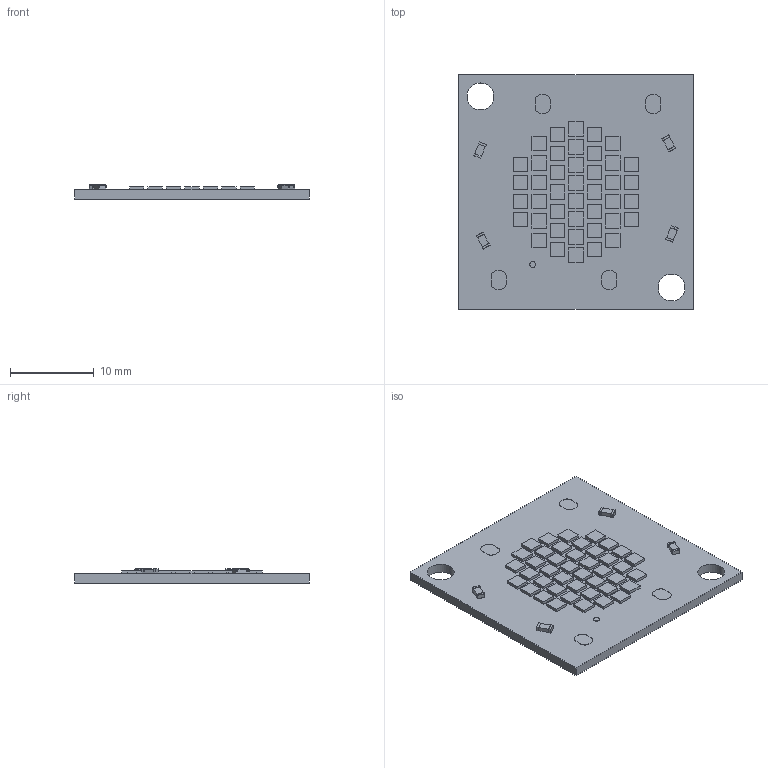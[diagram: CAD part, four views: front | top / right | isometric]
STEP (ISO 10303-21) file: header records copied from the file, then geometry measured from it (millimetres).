
FILE_DESCRIPTION((''),'2;1');
FILE_NAME('16208877_SLE-TW-PRE2-LES17','2021-03-26T13:33:56',('Bernhard.Fink'),(''),'CREO PARAMETRIC BY PTC INC, 2019164','CREO PARAMETRIC BY PTC INC, 2019164','');
FILE_SCHEMA(('CONFIG_CONTROL_DESIGN'));
Length unit declared in the file: millimetre
Products named in the file (1): 16208877_SLE-TW-PRE2-LES17
Bounding box: 28 x 28 x 1.7 mm (x, y, z)
Volume: 929.1 mm3; surface area: 1809.4 mm2
Topology: 1 solids, 1 shells, 483 faces, 1198 edges, 692 vertices
Faces by surface type: plane 285, cylinder 126, sphere 72
Entity records: 13610 total; most frequent: DIRECTION 2408, CARTESIAN_POINT 2301, ORIENTED_EDGE 2252, EDGE_CURVE 1126, VECTOR 810, LINE 810, AXIS2_PLACEMENT_3D 799, VERTEX_POINT 692
